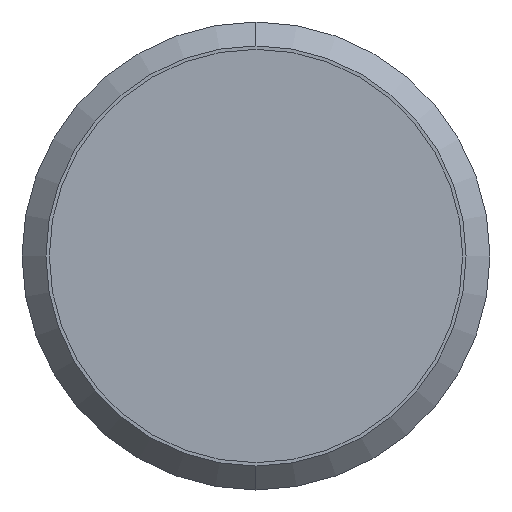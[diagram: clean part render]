
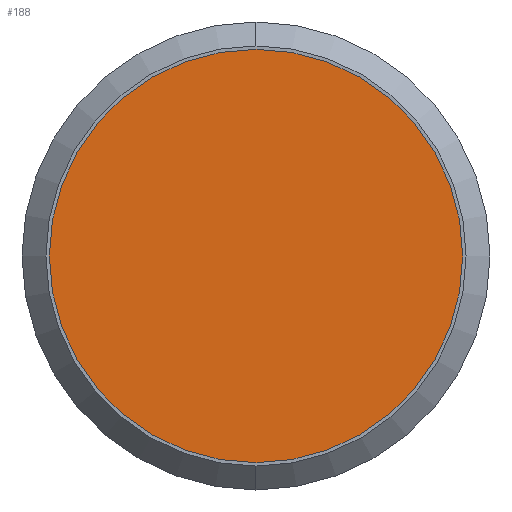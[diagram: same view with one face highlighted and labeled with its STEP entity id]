
A CAD part, left-side view. The second image highlights one B-rep face of the part: STEP entity #188.
In plain terms, the highlighted planar face has unit normal (-1, 0, 0).
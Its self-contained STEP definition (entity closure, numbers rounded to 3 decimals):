
#187 = ORIENTED_EDGE ( 'NONE', *, *, #873, .F. ) ;
#188 = ADVANCED_FACE ( 'NONE', ( #1196 ), #1477, .T. ) ;
#283 = EDGE_LOOP ( 'NONE', ( #1167, #187 ) ) ;
#335 = DIRECTION ( 'NONE',  ( -1., 0., 0. ) ) ;
#344 = AXIS2_PLACEMENT_3D ( 'NONE', #1823, #827, #672 ) ;
#448 = CIRCLE ( 'NONE', #473, 5.3 ) ;
#473 = AXIS2_PLACEMENT_3D ( 'NONE', #1486, #927, #913 ) ;
#661 = CARTESIAN_POINT ( 'NONE',  ( 0., 0., -5.3 ) ) ;
#672 = DIRECTION ( 'NONE',  ( 0., 0., -1. ) ) ;
#827 = DIRECTION ( 'NONE',  ( 1., 0., 0. ) ) ;
#873 = EDGE_CURVE ( 'NONE', #1292, #921, #919, .T. ) ;
#913 = DIRECTION ( 'NONE',  ( 0., 0., -1. ) ) ;
#919 = CIRCLE ( 'NONE', #344, 5.3 ) ;
#921 = VERTEX_POINT ( 'NONE', #661 ) ;
#927 = DIRECTION ( 'NONE',  ( 1., 0., 0. ) ) ;
#1167 = ORIENTED_EDGE ( 'NONE', *, *, #1184, .F. ) ;
#1184 = EDGE_CURVE ( 'NONE', #921, #1292, #448, .T. ) ;
#1196 = FACE_OUTER_BOUND ( 'NONE', #283, .T. ) ;
#1278 = AXIS2_PLACEMENT_3D ( 'NONE', #1631, #335, #1374 ) ;
#1292 = VERTEX_POINT ( 'NONE', #1651 ) ;
#1374 = DIRECTION ( 'NONE',  ( 0., 0., 1. ) ) ;
#1477 = PLANE ( 'NONE',  #1278 ) ;
#1486 = CARTESIAN_POINT ( 'NONE',  ( 0., 0., 0. ) ) ;
#1631 = CARTESIAN_POINT ( 'NONE',  ( 0., 2.65, 0. ) ) ;
#1651 = CARTESIAN_POINT ( 'NONE',  ( 0., 0., 5.3 ) ) ;
#1823 = CARTESIAN_POINT ( 'NONE',  ( 0., 0., 0. ) ) ;
